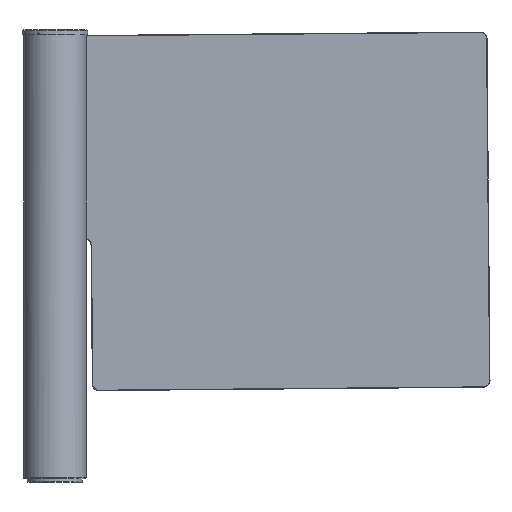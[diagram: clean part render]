
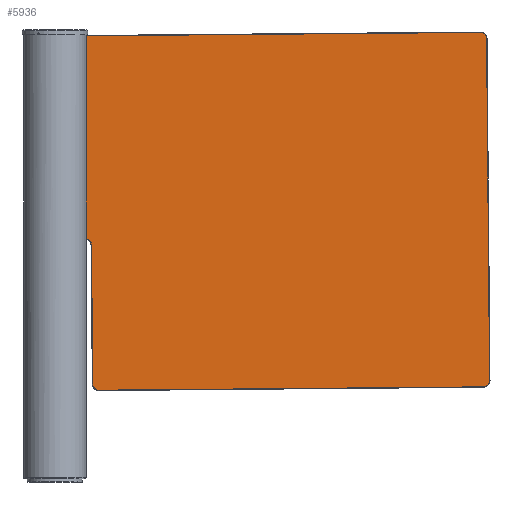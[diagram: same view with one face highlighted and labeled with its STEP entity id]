
A CAD part, front view. The second image highlights one B-rep face of the part: STEP entity #5936.
In plain terms, the highlighted planar face has unit normal (0, -1, 0) as drawn and (0, 0, -1) by its records, which use the part's own axes.
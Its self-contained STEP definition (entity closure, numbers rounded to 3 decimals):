
#417=LINE('',#9676,#934);
#418=LINE('',#9680,#935);
#419=LINE('',#9684,#936);
#420=LINE('',#9688,#937);
#421=LINE('',#9692,#938);
#422=LINE('',#9696,#939);
#934=VECTOR('',#7652,1000.);
#935=VECTOR('',#7655,1000.);
#936=VECTOR('',#7658,1000.);
#937=VECTOR('',#7661,1000.);
#938=VECTOR('',#7664,1000.);
#939=VECTOR('',#7667,1000.);
#2026=ORIENTED_EDGE('',*,*,#3458,.T.);
#2027=ORIENTED_EDGE('',*,*,#3459,.T.);
#2028=ORIENTED_EDGE('',*,*,#3460,.T.);
#2029=ORIENTED_EDGE('',*,*,#3461,.T.);
#2030=ORIENTED_EDGE('',*,*,#3462,.T.);
#2031=ORIENTED_EDGE('',*,*,#3463,.T.);
#2032=ORIENTED_EDGE('',*,*,#3464,.T.);
#2033=ORIENTED_EDGE('',*,*,#3465,.T.);
#2034=ORIENTED_EDGE('',*,*,#3466,.T.);
#2035=ORIENTED_EDGE('',*,*,#3467,.T.);
#2036=ORIENTED_EDGE('',*,*,#3468,.T.);
#2037=ORIENTED_EDGE('',*,*,#3469,.T.);
#2038=ORIENTED_EDGE('',*,*,#3470,.T.);
#2039=ORIENTED_EDGE('',*,*,#3471,.T.);
#2040=ORIENTED_EDGE('',*,*,#3472,.T.);
#2041=ORIENTED_EDGE('',*,*,#3473,.T.);
#3458=EDGE_CURVE('',#4202,#4203,#4571,.F.);
#3459=EDGE_CURVE('',#4203,#4204,#417,.T.);
#3460=EDGE_CURVE('',#4204,#4205,#4572,.F.);
#3461=EDGE_CURVE('',#4205,#4206,#418,.T.);
#3462=EDGE_CURVE('',#4206,#4207,#4573,.F.);
#3463=EDGE_CURVE('',#4207,#4208,#419,.T.);
#3464=EDGE_CURVE('',#4208,#4209,#4574,.T.);
#3465=EDGE_CURVE('',#4209,#4210,#420,.T.);
#3466=EDGE_CURVE('',#4210,#4211,#4575,.F.);
#3467=EDGE_CURVE('',#4211,#4212,#421,.T.);
#3468=EDGE_CURVE('',#4212,#4213,#4576,.F.);
#3469=EDGE_CURVE('',#4213,#4202,#422,.T.);
#3470=EDGE_CURVE('',#4214,#4214,#4577,.T.);
#3471=EDGE_CURVE('',#4215,#4215,#4578,.T.);
#3472=EDGE_CURVE('',#4216,#4216,#4579,.T.);
#3473=EDGE_CURVE('',#4217,#4217,#4580,.T.);
#4202=VERTEX_POINT('',#9674);
#4203=VERTEX_POINT('',#9675);
#4204=VERTEX_POINT('',#9677);
#4205=VERTEX_POINT('',#9679);
#4206=VERTEX_POINT('',#9681);
#4207=VERTEX_POINT('',#9683);
#4208=VERTEX_POINT('',#9685);
#4209=VERTEX_POINT('',#9687);
#4210=VERTEX_POINT('',#9689);
#4211=VERTEX_POINT('',#9691);
#4212=VERTEX_POINT('',#9693);
#4213=VERTEX_POINT('',#9695);
#4214=VERTEX_POINT('',#9698);
#4215=VERTEX_POINT('',#9700);
#4216=VERTEX_POINT('',#9702);
#4217=VERTEX_POINT('',#9704);
#4571=CIRCLE('',#6701,14.);
#4572=CIRCLE('',#6702,14.);
#4573=CIRCLE('',#6703,14.);
#4574=CIRCLE('',#6704,16.);
#4575=CIRCLE('',#6705,14.);
#4576=CIRCLE('',#6706,14.);
#4577=CIRCLE('',#6707,7.);
#4578=CIRCLE('',#6708,7.);
#4579=CIRCLE('',#6709,7.);
#4580=CIRCLE('',#6710,7.);
#4842=EDGE_LOOP('',(#2026,#2027,#2028,#2029,#2030,#2031,#2032,#2033,#2034,
#2035,#2036,#2037));
#4843=EDGE_LOOP('',(#2038));
#4844=EDGE_LOOP('',(#2039));
#4845=EDGE_LOOP('',(#2040));
#4846=EDGE_LOOP('',(#2041));
#5312=FACE_BOUND('',#4842,.T.);
#5313=FACE_BOUND('',#4843,.T.);
#5314=FACE_BOUND('',#4844,.T.);
#5315=FACE_BOUND('',#4845,.T.);
#5316=FACE_BOUND('',#4846,.T.);
#5689=PLANE('',#6700);
#5936=ADVANCED_FACE('',(#5312,#5313,#5314,#5315,#5316),#5689,.F.);
#6700=AXIS2_PLACEMENT_3D('',#9672,#7648,#7649);
#6701=AXIS2_PLACEMENT_3D('',#9673,#7650,#7651);
#6702=AXIS2_PLACEMENT_3D('',#9678,#7653,#7654);
#6703=AXIS2_PLACEMENT_3D('',#9682,#7656,#7657);
#6704=AXIS2_PLACEMENT_3D('',#9686,#7659,#7660);
#6705=AXIS2_PLACEMENT_3D('',#9690,#7662,#7663);
#6706=AXIS2_PLACEMENT_3D('',#9694,#7665,#7666);
#6707=AXIS2_PLACEMENT_3D('',#9697,#7668,#7669);
#6708=AXIS2_PLACEMENT_3D('',#9699,#7670,#7671);
#6709=AXIS2_PLACEMENT_3D('',#9701,#7672,#7673);
#6710=AXIS2_PLACEMENT_3D('',#9703,#7674,#7675);
#7648=DIRECTION('',(0.,0.,1.));
#7649=DIRECTION('',(1.,0.,0.));
#7650=DIRECTION('',(0.,0.,1.));
#7651=DIRECTION('',(1.,0.,0.));
#7652=DIRECTION('',(1.,0.,0.));
#7653=DIRECTION('',(0.,0.,1.));
#7654=DIRECTION('',(1.,0.,0.));
#7655=DIRECTION('',(0.,-1.,0.));
#7656=DIRECTION('',(0.,0.,1.));
#7657=DIRECTION('',(1.,0.,0.));
#7658=DIRECTION('',(-1.,0.,0.));
#7659=DIRECTION('',(0.,0.,1.));
#7660=DIRECTION('',(1.,0.,0.));
#7661=DIRECTION('',(0.,-1.,0.));
#7662=DIRECTION('',(0.,0.,1.));
#7663=DIRECTION('',(1.,0.,0.));
#7664=DIRECTION('',(-1.,0.,0.));
#7665=DIRECTION('',(0.,0.,1.));
#7666=DIRECTION('',(1.,0.,0.));
#7667=DIRECTION('',(0.,1.,0.));
#7668=DIRECTION('',(0.,0.,1.));
#7669=DIRECTION('',(1.,0.,0.));
#7670=DIRECTION('',(0.,0.,1.));
#7671=DIRECTION('',(1.,0.,0.));
#7672=DIRECTION('',(0.,0.,1.));
#7673=DIRECTION('',(1.,0.,0.));
#7674=DIRECTION('',(0.,0.,1.));
#7675=DIRECTION('',(1.,0.,0.));
#9672=CARTESIAN_POINT('',(-967.,455.,0.));
#9673=CARTESIAN_POINT('',(-952.,440.,0.));
#9674=CARTESIAN_POINT('',(-966.,440.,0.));
#9675=CARTESIAN_POINT('',(-952.,454.,0.));
#9676=CARTESIAN_POINT('',(-967.,454.,0.));
#9677=CARTESIAN_POINT('',(53.,454.,0.));
#9678=CARTESIAN_POINT('',(53.,440.,0.));
#9679=CARTESIAN_POINT('',(67.,440.,0.));
#9680=CARTESIAN_POINT('',(67.,455.,0.));
#9681=CARTESIAN_POINT('',(67.,15.,0.));
#9682=CARTESIAN_POINT('',(53.,15.,0.));
#9683=CARTESIAN_POINT('',(53.,1.,0.));
#9684=CARTESIAN_POINT('',(-967.,1.,0.));
#9685=CARTESIAN_POINT('',(-62.,1.,0.));
#9686=CARTESIAN_POINT('',(-62.,-15.,0.));
#9687=CARTESIAN_POINT('',(-78.,-15.,0.));
#9688=CARTESIAN_POINT('',(-78.,455.,0.));
#9689=CARTESIAN_POINT('',(-78.,-325.,0.));
#9690=CARTESIAN_POINT('',(-92.,-325.,0.));
#9691=CARTESIAN_POINT('',(-92.,-339.,0.));
#9692=CARTESIAN_POINT('',(-967.,-339.,0.));
#9693=CARTESIAN_POINT('',(-952.,-339.,0.));
#9694=CARTESIAN_POINT('',(-952.,-325.,0.));
#9695=CARTESIAN_POINT('',(-966.,-325.,0.));
#9696=CARTESIAN_POINT('',(-966.,455.,0.));
#9697=CARTESIAN_POINT('',(28.,55.,0.));
#9698=CARTESIAN_POINT('',(35.,55.,0.));
#9699=CARTESIAN_POINT('',(-42.,55.,0.));
#9700=CARTESIAN_POINT('',(-35.,55.,0.));
#9701=CARTESIAN_POINT('',(-42.,230.,0.));
#9702=CARTESIAN_POINT('',(-35.,230.,0.));
#9703=CARTESIAN_POINT('',(28.,405.,0.));
#9704=CARTESIAN_POINT('',(35.,405.,0.));
